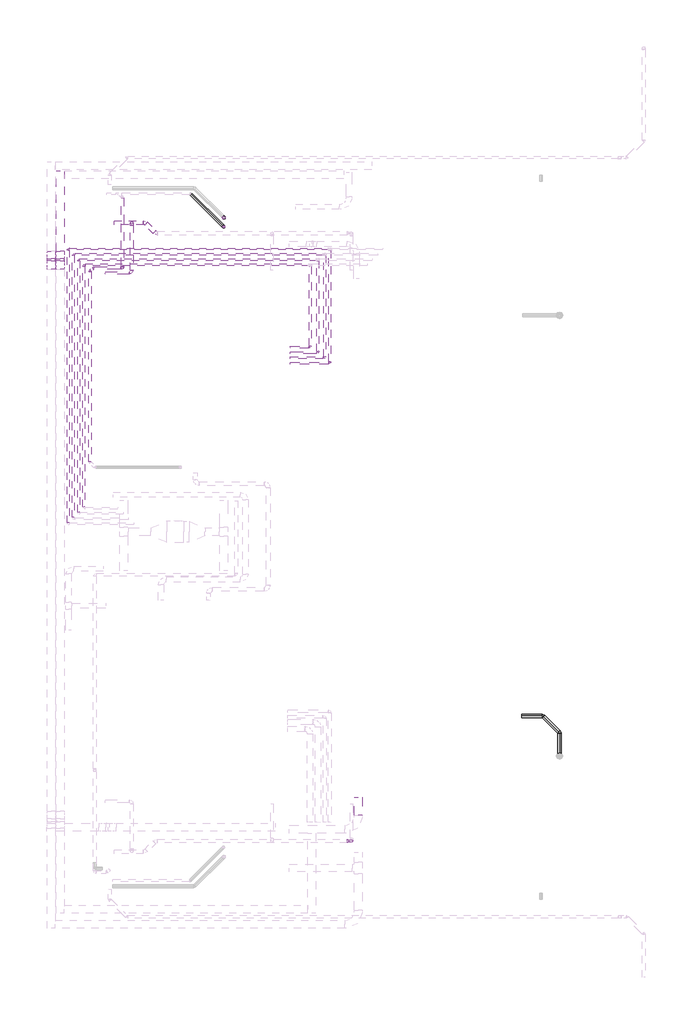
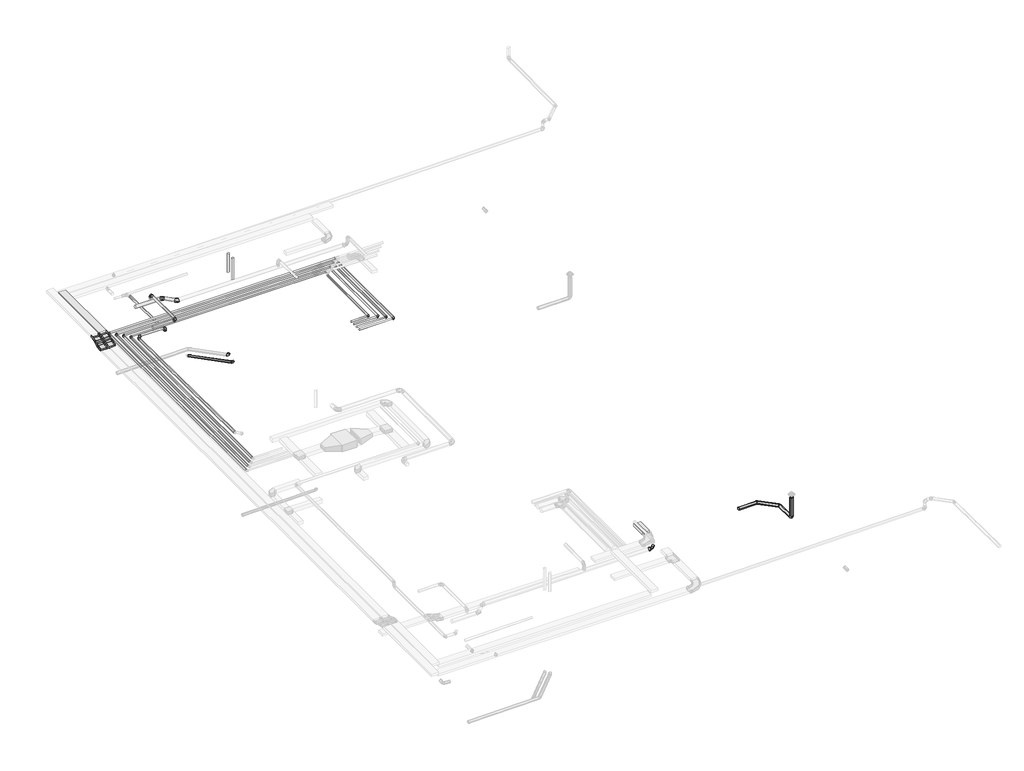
# One storey, part 3 of 4: 28 pipe segments, 18 pipe fittings, 6 duct fittings, 5 duct segments, 4 cable carrier fittings, 4 cable carrier segments.
"""IFC4 building model written with IfcOpenShell, lengths in millimetres."""

from ifc_helpers import new_model, si_unit, point, frame, frame_2d, origin, place, context, project, spatial, polyline, circle_curve, trimmed, segment, composite_curve, outline, extrude, transform, mapped, element, save
from components import m_codo_vertical_exterior_de_canal_el_c4dc7364, m_codo_vertical_interior_de_canal_el_3f65be50, duct_fitting_c79161f8, m_codo_redondo_ext_1_d_85067ab4, m_codo_redondo_ext_1_d_96ea52f9, m_codo_redondo_ext_1_d_18db741d, pipe_fitting_8e92d537, pipe_fitting_b994c117, pipe_fitting_e4fb672d, pipe_fitting_688cd524, pipe_fitting_7b861d32, pipe_fitting_3454c7e7, pipe_fitting_51958308, pipe_fitting_3a68447e

model = new_model("IFC4")

# Units and contexts
model_context = context("Model", 3, world=origin())
ifc_project = project(units=[si_unit("LENGTHUNIT", "METRE", prefix="MILLI")], contexts=[model_context])

# Site, building, storey
site = spatial("IfcSite", under=ifc_project)
building = spatial("IfcBuilding", under=site)
storey = spatial("IfcBuildingStorey", under=building, Name="Nivell 05 P05_PP", Elevation=26160.0)

# Cable carrier fittings
placement = place(None, origin())
m_codo_vertical_exterior_de_canal_el_shape = m_codo_vertical_exterior_de_canal_el_c4dc7364(model_context)
element("IfcCableCarrierFitting", 1, ObjectType="M_Codo vertical exterior de canal : EL", at=placement, inside=storey, context=model_context, shape_type="MappedRepresentation", body=[
    mapped(m_codo_vertical_exterior_de_canal_el_shape, transform((5357.0671065, 6149.6159499, 29460.0), x_axis=(0.0, -1.0, 0.0), y_axis=(0.0, 0.0, -1.0), z_axis=(1.0, 0.0, 0.0))),
])
element("IfcCableCarrierFitting", 2, ObjectType="M_Codo vertical exterior de canal : EL", at=placement, inside=storey, context=model_context, shape_type="MappedRepresentation", body=[
    mapped(m_codo_vertical_exterior_de_canal_el_shape, transform((5008.2381883, 6149.6159499, 29460.0), x_axis=(0.0, -1.0, 0.0), y_axis=(0.0, 0.0, -1.0), z_axis=(1.0, 0.0, 0.0))),
])
m_codo_vertical_interior_de_canal_el_shape = m_codo_vertical_interior_de_canal_el_3f65be50(model_context)
element("IfcCableCarrierFitting", 3, ObjectType="M_Codo vertical interior de canal : EL", at=placement, inside=storey, context=model_context, shape_type="MappedRepresentation", body=[
    mapped(m_codo_vertical_interior_de_canal_el_shape, transform((5357.0671065, 5803.2057884, 29260.0), x_axis=(0.0, -0.8660254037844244, -0.5000000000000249), y_axis=(0.0, -0.5000000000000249, 0.8660254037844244), z_axis=(-1.0, 0.0, 0.0))),
])
element("IfcCableCarrierFitting", 4, ObjectType="M_Codo vertical interior de canal : EL", at=placement, inside=storey, context=model_context, shape_type="MappedRepresentation", body=[
    mapped(m_codo_vertical_interior_de_canal_el_shape, transform((5008.2381883, 5803.2057884, 29260.0), x_axis=(0.0, -0.8660254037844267, -0.5000000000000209), y_axis=(0.0, -0.5000000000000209, 0.8660254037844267), z_axis=(-1.0, 0.0, 0.0))),
])

# Cable carrier segments
element("IfcCableCarrierSegment", 5, ObjectType="EL", at=placement, inside=storey, context=model_context, shape_type="SweptSolid", body=[
    extrude(outline(polyline([(16464.6624278, -14321.1304394), (16764.6624278, -14321.1304394), (16764.6624278, -14996.1304394), (16464.6624278, -14996.1304394), (16464.6624278, -14321.1304394)])), frame((0.0, 0.0, 29210.0), z_axis=(0.0, 0.0, 1.0), x_axis=(1.0, 0.0, 0.0)), (0.0, 0.0, 1.0), 100.0),
])
element("IfcCableCarrierSegment", 6, ObjectType="EL", at=placement, inside=storey, context=model_context, shape_type="SweptSolid", body=[
    extrude(outline(polyline([(5207.0671065, 9356.732053), (5507.0671065, 9356.732053), (5507.0671065, 6318.3981673), (5207.0671065, 6318.3981673), (5207.0671065, 9356.732053)])), frame((0.0, 0.0, 29410.0), z_axis=(0.0, 0.0, 1.0), x_axis=(1.0, 0.0, 0.0)), (0.0, 0.0, 1.0), 100.0),
])
element("IfcCableCarrierSegment", 7, ObjectType="EL", at=placement, inside=storey, context=model_context, shape_type="SweptSolid", body=[
    extrude(outline(polyline([(0.0, -300.0), (0.0, 0.0), (62.4355653, 0.0), (62.4355653, -300.0), (0.0, -300.0)])), frame((5507.0671065, 6028.446262, 29332.3076211), z_axis=(0.0, -0.5000000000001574, 0.8660254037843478), x_axis=(0.0, -0.8660254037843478, -0.5000000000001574)), (0.0, 0.0, 1.0), 100.0),
])
element("IfcCableCarrierSegment", 8, ObjectType="EL", at=placement, inside=storey, context=model_context, shape_type="SweptSolid", body=[
    extrude(outline(polyline([(0.0, -300.0), (0.0, 0.0), (62.4355653, 0.0), (62.4355653, -300.0), (0.0, -300.0)])), frame((5158.2381883, 6028.446262, 29332.3076211), z_axis=(0.0, -0.49999999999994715, 0.8660254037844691), x_axis=(0.0, -0.8660254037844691, -0.49999999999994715)), (0.0, 0.0, 1.0), 100.0),
])

# Duct fittings
duct_fitting_shape = duct_fitting_c79161f8(model_context)
element("IfcDuctFitting", 9, ObjectType="M_Transición redonda - Ángulo : EXT_45 graus", at=placement, inside=storey, context=model_context, shape_type="MappedRepresentation", body=[
    mapped(duct_fitting_shape, transform((16250.5896993, -15972.9719502, 29265.0), x_axis=(-1.0, 0.0, 0.0), y_axis=(0.0, -1.0, 0.0), z_axis=(0.0, 0.0, 1.0))),
])
m_codo_redondo_ext_1_d_shape = m_codo_redondo_ext_1_d_85067ab4(model_context)
element("IfcDuctFitting", 10, ObjectType="M_Codo redondo : EXT_1 D", at=placement, inside=storey, context=model_context, shape_type="MappedRepresentation", body=[
    mapped(m_codo_redondo_ext_1_d_shape, transform((8050.5896993, 5490.7319202, 29610.0), x_axis=(1.0, 0.0, 0.0), y_axis=(0.0, 1.0, 0.0), z_axis=(0.0, 0.0, 1.0))),
])
element("IfcDuctFitting", 11, ObjectType="M_Codo redondo : EXT_1 D", at=placement, inside=storey, context=model_context, shape_type="MappedRepresentation", body=[
    mapped(m_codo_redondo_ext_1_d_shape, transform((8050.5896993, 7388.2772732, 29610.0), x_axis=(0.0, 1.0, 0.0), y_axis=(0.0, 0.0, -1.0), z_axis=(-1.0, 0.0, 0.0))),
])
m_codo_redondo_ext_1_d_2_shape = m_codo_redondo_ext_1_d_96ea52f9(model_context)
element("IfcDuctFitting", 12, ObjectType="M_Codo redondo : EXT_1 D", at=placement, inside=storey, context=model_context, shape_type="MappedRepresentation", body=[
    mapped(m_codo_redondo_ext_1_d_2_shape, transform((16350.5896993, -15972.9719502, 29265.0), x_axis=(0.0, 0.0, -1.0), y_axis=(1.0, 0.0, 0.0), z_axis=(0.0, -1.0, 0.0))),
])
m_codo_redondo_ext_1_d_3_shape = m_codo_redondo_ext_1_d_18db741d(model_context)
element("IfcDuctFitting", 13, ObjectType="M_Codo redondo : EXT_1 D", at=placement, inside=storey, context=model_context, shape_type="MappedRepresentation", body=[
    mapped(m_codo_redondo_ext_1_d_3_shape, transform((8950.5896993, 6992.2199701, 29265.0), x_axis=(0.7071067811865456, -0.7071067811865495, 0.0), y_axis=(0.7071067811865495, 0.7071067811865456, 0.0), z_axis=(0.0, 0.0, 1.0))),
])
element("IfcDuctFitting", 14, ObjectType="M_Codo redondo : EXT_1 D", at=placement, inside=storey, context=model_context, shape_type="MappedRepresentation", body=[
    mapped(m_codo_redondo_ext_1_d_3_shape, transform((8550.5886625, 7392.2210069, 29265.0), x_axis=(-0.7071067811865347, 0.7071067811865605, 0.0), y_axis=(-0.7071067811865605, -0.7071067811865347, 0.0), z_axis=(0.0, 0.0, 1.0))),
])

# Duct segments
element("IfcDuctSegment", 15, ObjectType="EXT_Acer Galvanitzat - Rígid", at=placement, inside=storey, context=model_context, shape_type="SweptSolid", body=[
    extrude(outline(composite_curve([segment(trimmed(circle_curve(frame_2d((5490.7319202, 29610.0)), 50.0), [point((5440.7319202, 29610.0))], [point((5490.7319202, 29660.0))], False, "CARTESIAN"), True, "CONTINUOUS"), segment(trimmed(circle_curve(frame_2d((5490.7319202, 29610.0)), 50.0), [point((5490.7319202, 29660.0))], [point((5540.7319202, 29610.0))], False, "CARTESIAN"), True, "CONTINUOUS"), segment(trimmed(circle_curve(frame_2d((5490.7319202, 29610.0)), 50.0), [point((5540.7319202, 29610.0))], [point((5490.7319202, 29560.0))], False, "CARTESIAN"), True, "CONTINUOUS"), segment(trimmed(circle_curve(frame_2d((5490.7319202, 29610.0)), 50.0), [point((5490.7319202, 29560.0))], [point((5440.7319202, 29610.0))], False, "CARTESIAN"), True, "CONTINUOUS")], self_intersect=False)), frame((7050.5896993, 0.0, 0.0), z_axis=(1.0, 0.0, 0.0), x_axis=(0.0, 1.0, 0.0)), (0.0, 0.0, 1.0), 900.0),
])
element("IfcDuctSegment", 16, ObjectType="EXT_Acer Galvanitzat - Rígid", at=placement, inside=storey, context=model_context, shape_type="SweptSolid", body=[
    extrude(outline(composite_curve([segment(trimmed(circle_curve(frame_2d((29610.0, 8050.5896993)), 50.0), [point((29610.0, 8000.5896993))], [point((29560.0, 8050.5896993))], False, "CARTESIAN"), True, "CONTINUOUS"), segment(trimmed(circle_curve(frame_2d((29610.0, 8050.5896993)), 50.0), [point((29560.0, 8050.5896993))], [point((29610.0, 8100.5896993))], False, "CARTESIAN"), True, "CONTINUOUS"), segment(trimmed(circle_curve(frame_2d((29610.0, 8050.5896993)), 50.0), [point((29610.0, 8100.5896993))], [point((29660.0, 8050.5896993))], False, "CARTESIAN"), True, "CONTINUOUS"), segment(trimmed(circle_curve(frame_2d((29610.0, 8050.5896993)), 50.0), [point((29660.0, 8050.5896993))], [point((29610.0, 8000.5896993))], False, "CARTESIAN"), True, "CONTINUOUS")], self_intersect=False)), frame((0.0, 5590.7319202, 0.0), z_axis=(0.0, 1.0, 0.0), x_axis=(0.0, 0.0, 1.0)), (0.0, 0.0, 1.0), 1697.545353),
])
element("IfcDuctSegment", 17, ObjectType="EXT_Acer Galvanitzat - Rígid", at=placement, inside=storey, context=model_context, shape_type="SweptSolid", body=[
    extrude(outline(composite_curve([segment(trimmed(circle_curve(frame_2d((8050.5896993, 7388.2772732)), 50.0), [point((8000.5896993, 7388.2772732))], [point((8050.5896993, 7438.2772732))], False, "CARTESIAN"), True, "CONTINUOUS"), segment(trimmed(circle_curve(frame_2d((8050.5896993, 7388.2772732)), 50.0), [point((8050.5896993, 7438.2772732))], [point((8100.5896993, 7388.2772732))], False, "CARTESIAN"), True, "CONTINUOUS"), segment(trimmed(circle_curve(frame_2d((8050.5896993, 7388.2772732)), 50.0), [point((8100.5896993, 7388.2772732))], [point((8050.5896993, 7338.2772732))], False, "CARTESIAN"), True, "CONTINUOUS"), segment(trimmed(circle_curve(frame_2d((8050.5896993, 7388.2772732)), 50.0), [point((8050.5896993, 7338.2772732))], [point((8000.5896993, 7388.2772732))], False, "CARTESIAN"), True, "CONTINUOUS")], self_intersect=False)), frame((0.0, 0.0, 29441.6), z_axis=(0.0, 0.0, 1.0), x_axis=(1.0, 0.0, 0.0)), (0.0, 0.0, 1.0), 68.4),
])
element("IfcDuctSegment", 18, ObjectType="EXT_Acer Galvanitzat - Rígid", at=placement, inside=storey, context=model_context, shape_type="SweptSolid", body=[
    extrude(outline(composite_curve([segment(trimmed(circle_curve(frame_2d((0.0, 75.0)), 75.0), [point((74.9999999, 75.0))], [point((0.0, 0.0))], False, "CARTESIAN"), True, "CONTINUOUS"), segment(trimmed(circle_curve(frame_2d((0.0, 75.0)), 75.0), [point((0.0, 0.0))], [point((-74.9999999, 75.0))], False, "CARTESIAN"), True, "CONTINUOUS"), segment(trimmed(circle_curve(frame_2d((0.0, 75.0)), 75.0), [point((-74.9999999, 75.0))], [point((0.0, 150.0))], False, "CARTESIAN"), True, "CONTINUOUS"), segment(trimmed(circle_curve(frame_2d((0.0, 75.0)), 75.0), [point((0.0, 150.0))], [point((74.9999999, 75.0))], False, "CARTESIAN"), True, "CONTINUOUS")], self_intersect=False)), frame((8906.6557164, 7036.153953, 29340.0), z_axis=(-0.7071067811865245, 0.7071067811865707, 0.0), x_axis=(0.7071067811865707, 0.7071067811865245, 0.0)), (0.0, 0.0, 1.0), 441.4228225),
])
element("IfcDuctSegment", 19, ObjectType="EXT_Acer Galvanitzat - Rígid", at=placement, inside=storey, context=model_context, shape_type="SweptSolid", body=[
    extrude(outline(composite_curve([segment(trimmed(circle_curve(frame_2d((7392.2210069, 29265.0)), 75.0), [point((7467.2210069, 29265.0))], [point((7392.2210069, 29190.0))], False, "CARTESIAN"), True, "CONTINUOUS"), segment(trimmed(circle_curve(frame_2d((7392.2210069, 29265.0)), 75.0), [point((7392.2210069, 29190.0))], [point((7317.2210069, 29265.0))], False, "CARTESIAN"), True, "CONTINUOUS"), segment(trimmed(circle_curve(frame_2d((7392.2210069, 29265.0)), 75.0), [point((7317.2210069, 29265.0))], [point((7392.2210069, 29340.0))], False, "CARTESIAN"), True, "CONTINUOUS"), segment(trimmed(circle_curve(frame_2d((7392.2210069, 29265.0)), 75.0), [point((7392.2210069, 29340.0))], [point((7467.2210069, 29265.0))], False, "CARTESIAN"), True, "CONTINUOUS")], self_intersect=False)), frame((7390.5886625, 0.0, 0.0), z_axis=(1.0, 0.0, 0.0), x_axis=(0.0, 1.0, 0.0)), (0.0, 0.0, 1.0), 1097.8679656),
])

# Pipe fittings
pipe_fitting_shape = pipe_fitting_8e92d537(model_context)
element("IfcPipeFitting", 20, ObjectType="M_Codo - Genérico : Estándar", at=placement, inside=storey, context=model_context, shape_type="MappedRepresentation", body=[
    mapped(pipe_fitting_shape, transform((24213.2452954, -12759.2357009, 25960.8232881), x_axis=(0.0, 0.0, -1.0), y_axis=(0.0, 1.0, 0.0), z_axis=(1.0, 0.0, 0.0))),
])
pipe_fitting_2_shape = pipe_fitting_b994c117(model_context)
element("IfcPipeFitting", 21, ObjectType="M_Codo - Genérico : Estándar", at=placement, inside=storey, context=model_context, shape_type="MappedRepresentation", body=[
    mapped(pipe_fitting_2_shape, transform((24213.2452954, -11874.6467319, 25951.9773985), x_axis=(0.0, 0.9999500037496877, -0.009999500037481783), y_axis=(-0.9999914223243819, -4.1416859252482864e-05, -0.004141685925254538), z_axis=(-0.0041418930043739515, 0.009999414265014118, 0.9999414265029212))),
])
element("IfcPipeFitting", 22, ObjectType="M_Codo - Genérico : Estándar", at=placement, inside=storey, context=model_context, shape_type="MappedRepresentation", body=[
    mapped(pipe_fitting_2_shape, transform((23582.9809061, -11244.3823427, 25943.064114), x_axis=(-0.707071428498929, 0.7070714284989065, -0.009999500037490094), y_axis=(-0.7070714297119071, -0.7071300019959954, -0.0041416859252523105), z_axis=(-0.009999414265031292, 0.00414189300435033, 0.9999414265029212))),
])
pipe_fitting_3_shape = pipe_fitting_e4fb672d(model_context)
element("IfcPipeFitting", 23, ObjectType="M_Transición - Genérica : Estándar", at=placement, inside=storey, context=model_context, shape_type="MappedRepresentation", body=[
    mapped(pipe_fitting_3_shape, transform((24213.263137, -12759.2418782, 26908.0), x_axis=(0.0, 0.0, -1.0), y_axis=(1.0, 0.0, 0.0), z_axis=(0.0, -1.0, 0.0))),
])
pipe_fitting_4_shape = pipe_fitting_688cd524(model_context)
element("IfcPipeFitting", 24, ObjectType="M_Codo - Genérico : Estándar", at=placement, inside=storey, context=model_context, shape_type="MappedRepresentation", body=[
    mapped(pipe_fitting_4_shape, transform((7694.809888, 5681.3632161, 29244.4034263), x_axis=(0.9999500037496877, 0.0, -0.00999950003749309), y_axis=(-0.00999950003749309, 0.0, -0.9999500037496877), z_axis=(0.0, 1.0, 0.0))),
])
element("IfcPipeFitting", 25, ObjectType="M_Codo - Genérico : Estándar", at=placement, inside=storey, context=model_context, shape_type="MappedRepresentation", body=[
    mapped(pipe_fitting_4_shape, transform((7694.7858287, 5681.3903035, 29115.9087684), x_axis=(0.0, 0.0, -1.0), y_axis=(0.0, 1.0, 0.0), z_axis=(1.0, 0.0, 0.0))),
])
pipe_fitting_5_shape = pipe_fitting_7b861d32(model_context)
element("IfcPipeFitting", 26, ObjectType="M_Codo - Genérico : Estándar", at=placement, inside=storey, context=model_context, shape_type="MappedRepresentation", body=[
    mapped(pipe_fitting_5_shape, transform((6597.2281105, 5681.3586411, 29255.4028763), x_axis=(-0.9999500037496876, 0.0, 0.009999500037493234), y_axis=(4.1416859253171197e-05, -0.9999914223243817, 0.004141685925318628), z_axis=(0.009999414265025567, 0.004141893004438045, 0.9999414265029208))),
])
element("IfcPipeFitting", 27, ObjectType="M_Codo - Genérico : Estándar", at=placement, inside=storey, context=model_context, shape_type="MappedRepresentation", body=[
    mapped(pipe_fitting_5_shape, transform((6477.6345979, 5561.7651285, 29257.094184), x_axis=(-0.7070714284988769, -0.7070714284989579, 0.009999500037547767), y_axis=(0.7071300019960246, -0.7070714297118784, 0.00414168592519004), z_axis=(0.00414189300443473, 0.009999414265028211, 0.9999414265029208))),
])
pipe_fitting_6_shape = pipe_fitting_3454c7e7(model_context)
element("IfcPipeFitting", 28, ObjectType="M_Codo - Genérico : Estándar", at=placement, inside=storey, context=model_context, shape_type="MappedRepresentation", body=[
    mapped(pipe_fitting_6_shape, transform((11534.5619983, 7581.1908892, 25510.0), x_axis=(0.7070714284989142, -0.7070714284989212, 0.00999950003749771), y_axis=(0.007070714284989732, -0.007070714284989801, -0.9999500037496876), z_axis=(0.707106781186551, 0.707106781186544, 0.0))),
])
pipe_fitting_7_shape = pipe_fitting_51958308(model_context)
element("IfcPipeFitting", 29, ObjectType="M_Codo - Genérico : Estándar", at=placement, inside=storey, context=model_context, shape_type="MappedRepresentation", body=[
    mapped(pipe_fitting_7_shape, transform((11525.3277949, 7233.9123781, 25382.2904279), x_axis=(0.7070714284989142, -0.7070714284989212, 0.00999950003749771), y_axis=(0.007070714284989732, -0.007070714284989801, -0.9999500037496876), z_axis=(0.707106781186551, 0.707106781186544, 0.0))),
])
pipe_fitting_8_shape = pipe_fitting_3a68447e(model_context)
element("IfcPipeFitting", 30, ObjectType="M_Codo - Genérico : Estándar", at=placement, inside=storey, context=model_context, shape_type="MappedRepresentation", body=[
    mapped(pipe_fitting_8_shape, transform((5645.7381883, 6394.2427547, 29272.5), x_axis=(-1.0, 0.0, 0.0), y_axis=(0.0, -1.0, 0.0), z_axis=(0.0, 0.0, 1.0))),
])
element("IfcPipeFitting", 31, ObjectType="M_Codo - Genérico : Estándar", at=placement, inside=storey, context=model_context, shape_type="MappedRepresentation", body=[
    mapped(pipe_fitting_8_shape, transform((5845.7381883, 6194.2427547, 29272.5), x_axis=(-1.0, 0.0, 0.0), y_axis=(0.0, -1.0, 0.0), z_axis=(0.0, 0.0, 1.0))),
])
element("IfcPipeFitting", 32, ObjectType="M_Codo - Genérico : Estándar", at=placement, inside=storey, context=model_context, shape_type="MappedRepresentation", body=[
    mapped(pipe_fitting_8_shape, transform((6045.7381883, 5994.2427547, 29272.5), x_axis=(-1.0, 0.0, 0.0), y_axis=(0.0, -1.0, 0.0), z_axis=(0.0, 0.0, 1.0))),
])
element("IfcPipeFitting", 33, ObjectType="M_Codo - Genérico : Estándar", at=placement, inside=storey, context=model_context, shape_type="MappedRepresentation", body=[
    mapped(pipe_fitting_8_shape, transform((6245.7381883, 5794.2427547, 29272.5), x_axis=(-1.0, 0.0, 0.0), y_axis=(0.0, -1.0, 0.0), z_axis=(0.0, 0.0, 1.0))),
])
element("IfcPipeFitting", 34, ObjectType="M_Codo - Genérico : Estándar", at=placement, inside=storey, context=model_context, shape_type="MappedRepresentation", body=[
    mapped(pipe_fitting_8_shape, transform((14787.4352568, 2683.4063617, 29122.5), x_axis=(1.0, 0.0, 0.0), y_axis=(0.0, 1.0, 0.0), z_axis=(0.0, 0.0, 1.0))),
])
element("IfcPipeFitting", 35, ObjectType="M_Codo - Genérico : Estándar", at=placement, inside=storey, context=model_context, shape_type="MappedRepresentation", body=[
    mapped(pipe_fitting_8_shape, transform((15087.4352568, 2483.4063617, 29122.5), x_axis=(1.0, 0.0, 0.0), y_axis=(0.0, 1.0, 0.0), z_axis=(0.0, 0.0, 1.0))),
])
element("IfcPipeFitting", 36, ObjectType="M_Codo - Genérico : Estándar", at=placement, inside=storey, context=model_context, shape_type="MappedRepresentation", body=[
    mapped(pipe_fitting_8_shape, transform((15337.4352568, 2283.4063617, 29122.5), x_axis=(1.0, 0.0, 0.0), y_axis=(0.0, 1.0, 0.0), z_axis=(0.0, 0.0, 1.0))),
])
element("IfcPipeFitting", 37, ObjectType="M_Codo - Genérico : Estándar", at=placement, inside=storey, context=model_context, shape_type="MappedRepresentation", body=[
    mapped(pipe_fitting_8_shape, transform((15537.4352568, 2083.4063617, 29122.5), x_axis=(1.0, 0.0, 0.0), y_axis=(0.0, 1.0, 0.0), z_axis=(0.0, 0.0, 1.0))),
])

# Pipe segments
element("IfcPipeSegment", 38, ObjectType="PVC_Baixant", at=placement, inside=storey, context=model_context, shape_type="SweptSolid", body=[
    extrude(outline(composite_curve([segment(trimmed(circle_curve(frame_2d((0.0, -62.5000001)), 62.5), [point((62.5, -62.5000001))], [point((0.0, -125.0))], False, "CARTESIAN"), True, "CONTINUOUS"), segment(trimmed(circle_curve(frame_2d((0.0, -62.5000001)), 62.5), [point((0.0, -125.0))], [point((-62.5, -62.5000001))], False, "CARTESIAN"), True, "CONTINUOUS"), segment(trimmed(circle_curve(frame_2d((0.0, -62.5000001)), 62.5), [point((-62.5, -62.5000001))], [point((0.0, 0.0))], False, "CARTESIAN"), True, "CONTINUOUS"), segment(trimmed(circle_curve(frame_2d((0.0, -62.5000001)), 62.5), [point((0.0, 0.0))], [point((62.5, -62.5000001))], False, "CARTESIAN"), True, "CONTINUOUS")], self_intersect=False)), frame((24213.2452954, -11903.608932, 26014.7701454), z_axis=(0.0, -0.9999500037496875, 0.009999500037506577), x_axis=(1.0, 0.0, 0.0)), (0.0, 0.0, 1.0), 784.3178523),
])
element("IfcPipeSegment", 39, ObjectType="PVC_Baixant", at=placement, inside=storey, context=model_context, shape_type="SweptSolid", body=[
    extrude(outline(composite_curve([segment(trimmed(circle_curve(frame_2d((0.0, -62.4999999)), 62.5), [point((-62.5, -62.4999999))], [point((0.0, 0.0))], False, "CARTESIAN"), True, "CONTINUOUS"), segment(trimmed(circle_curve(frame_2d((0.0, -62.4999999)), 62.5), [point((0.0, 0.0))], [point((62.5, -62.4999999))], False, "CARTESIAN"), True, "CONTINUOUS"), segment(trimmed(circle_curve(frame_2d((0.0, -62.4999999)), 62.5), [point((62.5, -62.4999999))], [point((0.0, -124.9999999))], False, "CARTESIAN"), True, "CONTINUOUS"), segment(trimmed(circle_curve(frame_2d((0.0, -62.4999999)), 62.5), [point((0.0, -124.9999999))], [point((-62.5, -62.4999999))], False, "CARTESIAN"), True, "CONTINUOUS")], self_intersect=False)), frame((24213.2452954, -12821.7357008, 26031.5495274), z_axis=(2.114175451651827e-05, -7.319957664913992e-06, 0.9999999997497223), x_axis=(-0.9999999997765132, -1.5475620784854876e-10, 2.114175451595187e-05)), (0.0, 0.0, 1.0), 843.9062653),
])
element("IfcPipeSegment", 40, ObjectType="PVC_Baixant", at=placement, inside=storey, context=model_context, shape_type="SweptSolid", body=[
    extrude(outline(composite_curve([segment(trimmed(circle_curve(frame_2d((0.0, -62.5)), 62.5), [point((62.4968755, -61.8750625))], [point((0.6249376, -124.9968756))], False, "CARTESIAN"), True, "CONTINUOUS"), segment(trimmed(circle_curve(frame_2d((0.0, -62.5)), 62.5), [point((0.6249376, -124.9968756))], [point((-62.4968755, -63.1249375))], False, "CARTESIAN"), True, "CONTINUOUS"), segment(trimmed(circle_curve(frame_2d((0.0, -62.5)), 62.5), [point((-62.4968755, -63.1249375))], [point((-0.6249374, -0.0031244))], False, "CARTESIAN"), True, "CONTINUOUS"), segment(trimmed(circle_curve(frame_2d((0.0, -62.5)), 62.5), [point((-0.6249374, -0.0031244))], [point((62.4968755, -61.8750625))], False, "CARTESIAN"), True, "CONTINUOUS")], self_intersect=False)), frame((23603.9021938, -11264.4198353, 26005.8537366), z_axis=(0.7070714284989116, -0.7070714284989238, 0.009999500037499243), x_axis=(0.70714213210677, 0.7070007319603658, -0.009998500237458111)), (0.0, 0.0, 1.0), 832.1957162),
])
element("IfcPipeSegment", 41, ObjectType="PVC_Baixant", at=placement, inside=storey, context=model_context, shape_type="SweptSolid", body=[
    extrude(outline(composite_curve([segment(trimmed(circle_curve(frame_2d((0.0, -62.5)), 62.5), [point((0.0, 0.0))], [point((62.5, -62.5))], False, "CARTESIAN"), True, "CONTINUOUS"), segment(trimmed(circle_curve(frame_2d((0.0, -62.5)), 62.5), [point((62.5, -62.5))], [point((0.0, -125.0))], False, "CARTESIAN"), True, "CONTINUOUS"), segment(trimmed(circle_curve(frame_2d((0.0, -62.5)), 62.5), [point((0.0, -125.0))], [point((-62.5000001, -62.5))], False, "CARTESIAN"), True, "CONTINUOUS"), segment(trimmed(circle_curve(frame_2d((0.0, -62.5)), 62.5), [point((-62.5000001, -62.5))], [point((0.0, 0.0))], False, "CARTESIAN"), True, "CONTINUOUS")], self_intersect=False)), frame((22786.0281225, -11181.8823427, 25935.0945861), z_axis=(0.9999500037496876, 0.0, 0.009999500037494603), x_axis=(0.009999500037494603, 0.0, -0.9999500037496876)), (0.0, 0.0, 1.0), 767.4039821),
])
element("IfcPipeSegment", 42, ObjectType="PVC_Baixant", at=placement, inside=storey, context=model_context, shape_type="SweptSolid", body=[
    extrude(outline(composite_curve([segment(trimmed(circle_curve(frame_2d((11534.5619983, 7581.1908892)), 55.0), [point((11479.5619983, 7581.1908892))], [point((11534.5619983, 7636.1908892))], False, "CARTESIAN"), True, "CONTINUOUS"), segment(trimmed(circle_curve(frame_2d((11534.5619983, 7581.1908892)), 55.0), [point((11534.5619983, 7636.1908892))], [point((11589.5619983, 7581.1908892))], False, "CARTESIAN"), True, "CONTINUOUS"), segment(trimmed(circle_curve(frame_2d((11534.5619983, 7581.1908892)), 55.0), [point((11589.5619983, 7581.1908892))], [point((11534.5619983, 7526.1908892))], False, "CARTESIAN"), True, "CONTINUOUS"), segment(trimmed(circle_curve(frame_2d((11534.5619983, 7581.1908892)), 55.0), [point((11534.5619983, 7526.1908892))], [point((11479.5619983, 7581.1908892))], False, "CARTESIAN"), True, "CONTINUOUS")], self_intersect=False)), frame((0.0, 0.0, 29322.3112718), z_axis=(0.0, 0.0, 1.0), x_axis=(1.0, 0.0, 0.0)), (0.0, 0.0, 1.0), 837.6887282),
])
element("IfcPipeSegment", 43, ObjectType="PVC_Baixant", at=placement, inside=storey, context=model_context, shape_type="SweptSolid", body=[
    extrude(outline(composite_curve([segment(trimmed(circle_curve(frame_2d((0.0, 45.0)), 45.0), [point((-45.0, 45.0))], [point((1e-07, 90.0))], False, "CARTESIAN"), True, "CONTINUOUS"), segment(trimmed(circle_curve(frame_2d((0.0, 45.0)), 45.0), [point((1e-07, 90.0))], [point((45.0000001, 45.0))], False, "CARTESIAN"), True, "CONTINUOUS"), segment(trimmed(circle_curve(frame_2d((0.0, 45.0)), 45.0), [point((45.0000001, 45.0))], [point((0.0, 0.0))], False, "CARTESIAN"), True, "CONTINUOUS"), segment(trimmed(circle_curve(frame_2d((0.0, 45.0)), 45.0), [point((0.0, 0.0))], [point((-45.0, 45.0))], False, "CARTESIAN"), True, "CONTINUOUS")], self_intersect=False)), frame((11525.3277949, 7188.9123781, 29184.1560186), z_axis=(5.1728157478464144e-05, -1.4524516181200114e-05, 0.9999999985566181), x_axis=(0.9999999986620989, 7.513278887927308e-10, -5.1728157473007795e-05)), (0.0, 0.0, 1.0), 975.8433165),
])
element("IfcPipeSegment", 44, ObjectType="PVC_Baixant", at=placement, inside=storey, context=model_context, shape_type="SweptSolid", body=[
    extrude(outline(composite_curve([segment(trimmed(circle_curve(frame_2d((1e-07, -45.0)), 45.0), [point((44.9977504, -44.550045))], [point((0.449955, -89.9977503))], False, "CARTESIAN"), True, "CONTINUOUS"), segment(trimmed(circle_curve(frame_2d((1e-07, -45.0)), 45.0), [point((0.449955, -89.9977503))], [point((-44.9977504, -45.449955))], False, "CARTESIAN"), True, "CONTINUOUS"), segment(trimmed(circle_curve(frame_2d((1e-07, -45.0)), 45.0), [point((-44.9977504, -45.449955))], [point((-0.449955, -0.0022496))], False, "CARTESIAN"), True, "CONTINUOUS"), segment(trimmed(circle_curve(frame_2d((1e-07, -45.0)), 45.0), [point((-0.449955, -0.0022496))], [point((44.9977504, -44.550045))], False, "CARTESIAN"), True, "CONTINUOUS")], self_intersect=False)), frame((10293.8861548, 8465.9903507, 25409.8707139), z_axis=(0.7070714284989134, -0.707071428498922, 0.00999950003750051), x_axis=(0.7071421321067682, 0.7070007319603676, -0.009998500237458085)), (0.0, 0.0, 1.0), 1689.7422983),
])
element("IfcPipeSegment", 45, ObjectType="PPR_CLI_Aquatherm Blue Pipe", at=placement, inside=storey, context=model_context, shape_type="SweptSolid", body=[
    extrude(outline(composite_curve([segment(trimmed(circle_curve(frame_2d((2683.4063617, 29122.5)), 37.5), [point((2645.9063617, 29122.5))], [point((2683.4063617, 29160.0))], False, "CARTESIAN"), True, "CONTINUOUS"), segment(trimmed(circle_curve(frame_2d((2683.4063617, 29122.5)), 37.5), [point((2683.4063617, 29160.0))], [point((2720.9063617, 29122.5))], False, "CARTESIAN"), True, "CONTINUOUS"), segment(trimmed(circle_curve(frame_2d((2683.4063617, 29122.5)), 37.5), [point((2720.9063617, 29122.5))], [point((2683.4063617, 29085.0))], False, "CARTESIAN"), True, "CONTINUOUS"), segment(trimmed(circle_curve(frame_2d((2683.4063617, 29122.5)), 37.5), [point((2683.4063617, 29085.0))], [point((2645.9063617, 29122.5))], False, "CARTESIAN"), True, "CONTINUOUS")], self_intersect=False)), frame((14037.4352568, 0.0, 0.0), z_axis=(1.0, 0.0, 0.0), x_axis=(0.0, 1.0, 0.0)), (0.0, 0.0, 1.0), 704.5625),
])
element("IfcPipeSegment", 46, ObjectType="PPR_CLI_Aquatherm Blue Pipe", at=placement, inside=storey, context=model_context, shape_type="SweptSolid", body=[
    extrude(outline(composite_curve([segment(trimmed(circle_curve(frame_2d((29122.5, 14787.4352568)), 37.5), [point((29122.5, 14824.9352568))], [point((29160.0, 14787.4352568))], False, "CARTESIAN"), True, "CONTINUOUS"), segment(trimmed(circle_curve(frame_2d((29122.5, 14787.4352568)), 37.5), [point((29160.0, 14787.4352568))], [point((29122.5, 14749.9352568))], False, "CARTESIAN"), True, "CONTINUOUS"), segment(trimmed(circle_curve(frame_2d((29122.5, 14787.4352568)), 37.5), [point((29122.5, 14749.9352568))], [point((29085.0, 14787.4352568))], False, "CARTESIAN"), True, "CONTINUOUS"), segment(trimmed(circle_curve(frame_2d((29122.5, 14787.4352568)), 37.5), [point((29085.0, 14787.4352568))], [point((29122.5, 14824.9352568))], False, "CARTESIAN"), True, "CONTINUOUS")], self_intersect=False)), frame((0.0, 2728.8438617, 0.0), z_axis=(0.0, 1.0, 0.0), x_axis=(0.0, 0.0, 1.0)), (0.0, 0.0, 1.0), 3019.9613931),
])
element("IfcPipeSegment", 47, ObjectType="PPR_CLI_Aquatherm Blue Pipe", at=placement, inside=storey, context=model_context, shape_type="SweptSolid", body=[
    extrude(outline(composite_curve([segment(trimmed(circle_curve(frame_2d((2483.4063617, 29122.5)), 37.5), [point((2445.9063617, 29122.5))], [point((2483.4063617, 29160.0))], False, "CARTESIAN"), True, "CONTINUOUS"), segment(trimmed(circle_curve(frame_2d((2483.4063617, 29122.5)), 37.5), [point((2483.4063617, 29160.0))], [point((2520.9063617, 29122.5))], False, "CARTESIAN"), True, "CONTINUOUS"), segment(trimmed(circle_curve(frame_2d((2483.4063617, 29122.5)), 37.5), [point((2520.9063617, 29122.5))], [point((2483.4063617, 29085.0))], False, "CARTESIAN"), True, "CONTINUOUS"), segment(trimmed(circle_curve(frame_2d((2483.4063617, 29122.5)), 37.5), [point((2483.4063617, 29085.0))], [point((2445.9063617, 29122.5))], False, "CARTESIAN"), True, "CONTINUOUS")], self_intersect=False)), frame((14037.4352568, 0.0, 0.0), z_axis=(1.0, 0.0, 0.0), x_axis=(0.0, 1.0, 0.0)), (0.0, 0.0, 1.0), 1004.5625),
])
element("IfcPipeSegment", 48, ObjectType="PPR_CLI_Aquatherm Blue Pipe", at=placement, inside=storey, context=model_context, shape_type="SweptSolid", body=[
    extrude(outline(composite_curve([segment(trimmed(circle_curve(frame_2d((29122.5, 15087.4352568)), 37.5), [point((29122.5, 15124.9352568))], [point((29160.0, 15087.4352568))], False, "CARTESIAN"), True, "CONTINUOUS"), segment(trimmed(circle_curve(frame_2d((29122.5, 15087.4352568)), 37.5), [point((29160.0, 15087.4352568))], [point((29122.5, 15049.9352568))], False, "CARTESIAN"), True, "CONTINUOUS"), segment(trimmed(circle_curve(frame_2d((29122.5, 15087.4352568)), 37.5), [point((29122.5, 15049.9352568))], [point((29085.0, 15087.4352568))], False, "CARTESIAN"), True, "CONTINUOUS"), segment(trimmed(circle_curve(frame_2d((29122.5, 15087.4352568)), 37.5), [point((29085.0, 15087.4352568))], [point((29122.5, 15124.9352568))], False, "CARTESIAN"), True, "CONTINUOUS")], self_intersect=False)), frame((0.0, 2528.8438617, 0.0), z_axis=(0.0, 1.0, 0.0), x_axis=(0.0, 0.0, 1.0)), (0.0, 0.0, 1.0), 3419.9613931),
])
element("IfcPipeSegment", 49, ObjectType="PPR_CLI_Aquatherm Blue Pipe", at=placement, inside=storey, context=model_context, shape_type="SweptSolid", body=[
    extrude(outline(composite_curve([segment(trimmed(circle_curve(frame_2d((2283.4063617, 29122.5)), 37.5), [point((2245.9063617, 29122.5))], [point((2283.4063617, 29160.0))], False, "CARTESIAN"), True, "CONTINUOUS"), segment(trimmed(circle_curve(frame_2d((2283.4063617, 29122.5)), 37.5), [point((2283.4063617, 29160.0))], [point((2320.9063617, 29122.5))], False, "CARTESIAN"), True, "CONTINUOUS"), segment(trimmed(circle_curve(frame_2d((2283.4063617, 29122.5)), 37.5), [point((2320.9063617, 29122.5))], [point((2283.4063617, 29085.0))], False, "CARTESIAN"), True, "CONTINUOUS"), segment(trimmed(circle_curve(frame_2d((2283.4063617, 29122.5)), 37.5), [point((2283.4063617, 29085.0))], [point((2245.9063617, 29122.5))], False, "CARTESIAN"), True, "CONTINUOUS")], self_intersect=False)), frame((14037.4352568, 0.0, 0.0), z_axis=(1.0, 0.0, 0.0), x_axis=(0.0, 1.0, 0.0)), (0.0, 0.0, 1.0), 1254.5625),
])
element("IfcPipeSegment", 50, ObjectType="PPR_CLI_Aquatherm Blue Pipe", at=placement, inside=storey, context=model_context, shape_type="SweptSolid", body=[
    extrude(outline(composite_curve([segment(trimmed(circle_curve(frame_2d((29122.5, 15337.4352568)), 37.5), [point((29122.5, 15374.9352568))], [point((29160.0, 15337.4352568))], False, "CARTESIAN"), True, "CONTINUOUS"), segment(trimmed(circle_curve(frame_2d((29122.5, 15337.4352568)), 37.5), [point((29160.0, 15337.4352568))], [point((29122.5, 15299.9352568))], False, "CARTESIAN"), True, "CONTINUOUS"), segment(trimmed(circle_curve(frame_2d((29122.5, 15337.4352568)), 37.5), [point((29122.5, 15299.9352568))], [point((29085.0, 15337.4352568))], False, "CARTESIAN"), True, "CONTINUOUS"), segment(trimmed(circle_curve(frame_2d((29122.5, 15337.4352568)), 37.5), [point((29085.0, 15337.4352568))], [point((29122.5, 15374.9352568))], False, "CARTESIAN"), True, "CONTINUOUS")], self_intersect=False)), frame((0.0, 2328.8438617, 0.0), z_axis=(0.0, 1.0, 0.0), x_axis=(0.0, 0.0, 1.0)), (0.0, 0.0, 1.0), 3819.9613931),
])
element("IfcPipeSegment", 51, ObjectType="PPR_CLI_Aquatherm Blue Pipe", at=placement, inside=storey, context=model_context, shape_type="SweptSolid", body=[
    extrude(outline(composite_curve([segment(trimmed(circle_curve(frame_2d((2083.4063617, 29122.5)), 37.5), [point((2045.9063617, 29122.5))], [point((2083.4063617, 29160.0))], False, "CARTESIAN"), True, "CONTINUOUS"), segment(trimmed(circle_curve(frame_2d((2083.4063617, 29122.5)), 37.5), [point((2083.4063617, 29160.0))], [point((2120.9063617, 29122.5))], False, "CARTESIAN"), True, "CONTINUOUS"), segment(trimmed(circle_curve(frame_2d((2083.4063617, 29122.5)), 37.5), [point((2120.9063617, 29122.5))], [point((2083.4063617, 29085.0))], False, "CARTESIAN"), True, "CONTINUOUS"), segment(trimmed(circle_curve(frame_2d((2083.4063617, 29122.5)), 37.5), [point((2083.4063617, 29085.0))], [point((2045.9063617, 29122.5))], False, "CARTESIAN"), True, "CONTINUOUS")], self_intersect=False)), frame((14037.4352568, 0.0, 0.0), z_axis=(1.0, 0.0, 0.0), x_axis=(0.0, 1.0, 0.0)), (0.0, 0.0, 1.0), 1454.5625),
])
element("IfcPipeSegment", 52, ObjectType="PPR_CLI_Aquatherm Blue Pipe", at=placement, inside=storey, context=model_context, shape_type="SweptSolid", body=[
    extrude(outline(composite_curve([segment(trimmed(circle_curve(frame_2d((29122.5, 15537.4352568)), 37.5), [point((29122.5, 15574.9352568))], [point((29160.0, 15537.4352568))], False, "CARTESIAN"), True, "CONTINUOUS"), segment(trimmed(circle_curve(frame_2d((29122.5, 15537.4352568)), 37.5), [point((29160.0, 15537.4352568))], [point((29122.5, 15499.9352568))], False, "CARTESIAN"), True, "CONTINUOUS"), segment(trimmed(circle_curve(frame_2d((29122.5, 15537.4352568)), 37.5), [point((29122.5, 15499.9352568))], [point((29085.0, 15537.4352568))], False, "CARTESIAN"), True, "CONTINUOUS"), segment(trimmed(circle_curve(frame_2d((29122.5, 15537.4352568)), 37.5), [point((29085.0, 15537.4352568))], [point((29122.5, 15574.9352568))], False, "CARTESIAN"), True, "CONTINUOUS")], self_intersect=False)), frame((0.0, 2128.8438617, 0.0), z_axis=(0.0, 1.0, 0.0), x_axis=(0.0, 0.0, 1.0)), (0.0, 0.0, 1.0), 4219.9613931),
])
element("IfcPipeSegment", 53, ObjectType="PPR_CLI_Aquatherm Blue Pipe", at=placement, inside=storey, context=model_context, shape_type="SweptSolid", body=[
    extrude(outline(composite_curve([segment(trimmed(circle_curve(frame_2d((29272.5, 6245.7381883)), 37.5), [point((29272.5, 6283.2381883))], [point((29310.0, 6245.7381883))], False, "CARTESIAN"), True, "CONTINUOUS"), segment(trimmed(circle_curve(frame_2d((29272.5, 6245.7381883)), 37.5), [point((29310.0, 6245.7381883))], [point((29272.5, 6208.2381883))], False, "CARTESIAN"), True, "CONTINUOUS"), segment(trimmed(circle_curve(frame_2d((29272.5, 6245.7381883)), 37.5), [point((29272.5, 6208.2381883))], [point((29235.0, 6245.7381883))], False, "CARTESIAN"), True, "CONTINUOUS"), segment(trimmed(circle_curve(frame_2d((29272.5, 6245.7381883)), 37.5), [point((29235.0, 6245.7381883))], [point((29272.5, 6283.2381883))], False, "CARTESIAN"), True, "CONTINUOUS")], self_intersect=False)), frame((0.0, -3349.4878722, 0.0), z_axis=(0.0, 1.0, 0.0), x_axis=(0.0, 0.0, 1.0)), (0.0, 0.0, 1.0), 9098.2931269),
])
element("IfcPipeSegment", 54, ObjectType="PPR_CLI_Aquatherm Blue Pipe", at=placement, inside=storey, context=model_context, shape_type="SweptSolid", body=[
    extrude(outline(composite_curve([segment(trimmed(circle_curve(frame_2d((29272.5, 6045.7381883)), 37.5), [point((29272.5, 6083.2381883))], [point((29310.0, 6045.7381883))], False, "CARTESIAN"), True, "CONTINUOUS"), segment(trimmed(circle_curve(frame_2d((29272.5, 6045.7381883)), 37.5), [point((29310.0, 6045.7381883))], [point((29272.5, 6008.2381883))], False, "CARTESIAN"), True, "CONTINUOUS"), segment(trimmed(circle_curve(frame_2d((29272.5, 6045.7381883)), 37.5), [point((29272.5, 6008.2381883))], [point((29235.0, 6045.7381883))], False, "CARTESIAN"), True, "CONTINUOUS"), segment(trimmed(circle_curve(frame_2d((29272.5, 6045.7381883)), 37.5), [point((29235.0, 6045.7381883))], [point((29272.5, 6083.2381883))], False, "CARTESIAN"), True, "CONTINUOUS")], self_intersect=False)), frame((0.0, -3549.4878722, 0.0), z_axis=(0.0, 1.0, 0.0), x_axis=(0.0, 0.0, 1.0)), (0.0, 0.0, 1.0), 9498.2931269),
])
element("IfcPipeSegment", 55, ObjectType="PPR_CLI_Aquatherm Blue Pipe", at=placement, inside=storey, context=model_context, shape_type="SweptSolid", body=[
    extrude(outline(composite_curve([segment(trimmed(circle_curve(frame_2d((29272.5, 5845.7381883)), 37.5), [point((29272.5, 5883.2381883))], [point((29310.0, 5845.7381883))], False, "CARTESIAN"), True, "CONTINUOUS"), segment(trimmed(circle_curve(frame_2d((29272.5, 5845.7381883)), 37.5), [point((29310.0, 5845.7381883))], [point((29272.5, 5808.2381883))], False, "CARTESIAN"), True, "CONTINUOUS"), segment(trimmed(circle_curve(frame_2d((29272.5, 5845.7381883)), 37.5), [point((29272.5, 5808.2381883))], [point((29235.0, 5845.7381883))], False, "CARTESIAN"), True, "CONTINUOUS"), segment(trimmed(circle_curve(frame_2d((29272.5, 5845.7381883)), 37.5), [point((29235.0, 5845.7381883))], [point((29272.5, 5883.2381883))], False, "CARTESIAN"), True, "CONTINUOUS")], self_intersect=False)), frame((0.0, -3749.4878722, 0.0), z_axis=(0.0, 1.0, 0.0), x_axis=(0.0, 0.0, 1.0)), (0.0, 0.0, 1.0), 9898.2931269),
])
element("IfcPipeSegment", 56, ObjectType="PPR_CLI_Aquatherm Blue Pipe", at=placement, inside=storey, context=model_context, shape_type="SweptSolid", body=[
    extrude(outline(composite_curve([segment(trimmed(circle_curve(frame_2d((29272.5, 5645.7381883)), 37.5), [point((29272.5, 5683.2381883))], [point((29310.0, 5645.7381883))], False, "CARTESIAN"), True, "CONTINUOUS"), segment(trimmed(circle_curve(frame_2d((29272.5, 5645.7381883)), 37.5), [point((29310.0, 5645.7381883))], [point((29272.5, 5608.2381883))], False, "CARTESIAN"), True, "CONTINUOUS"), segment(trimmed(circle_curve(frame_2d((29272.5, 5645.7381883)), 37.5), [point((29272.5, 5608.2381883))], [point((29235.0, 5645.7381883))], False, "CARTESIAN"), True, "CONTINUOUS"), segment(trimmed(circle_curve(frame_2d((29272.5, 5645.7381883)), 37.5), [point((29235.0, 5645.7381883))], [point((29272.5, 5683.2381883))], False, "CARTESIAN"), True, "CONTINUOUS")], self_intersect=False)), frame((0.0, -3949.4878722, 0.0), z_axis=(0.0, 1.0, 0.0), x_axis=(0.0, 0.0, 1.0)), (0.0, 0.0, 1.0), 10298.2931269),
])
element("IfcPipeSegment", 57, ObjectType="PPR_CLI_Aquatherm Blue Pipe", at=placement, inside=storey, context=model_context, shape_type="SweptSolid", body=[
    extrude(outline(composite_curve([segment(trimmed(circle_curve(frame_2d((5794.2427547, 29272.5)), 37.5), [point((5756.7427547, 29272.5))], [point((5794.2427547, 29310.0))], False, "CARTESIAN"), True, "CONTINUOUS"), segment(trimmed(circle_curve(frame_2d((5794.2427547, 29272.5)), 37.5), [point((5794.2427547, 29310.0))], [point((5831.7427547, 29272.5))], False, "CARTESIAN"), True, "CONTINUOUS"), segment(trimmed(circle_curve(frame_2d((5794.2427547, 29272.5)), 37.5), [point((5831.7427547, 29272.5))], [point((5794.2427547, 29235.0))], False, "CARTESIAN"), True, "CONTINUOUS"), segment(trimmed(circle_curve(frame_2d((5794.2427547, 29272.5)), 37.5), [point((5794.2427547, 29235.0))], [point((5756.7427547, 29272.5))], False, "CARTESIAN"), True, "CONTINUOUS")], self_intersect=False)), frame((6291.1756883, 0.0, 0.0), z_axis=(1.0, 0.0, 0.0), x_axis=(0.0, 1.0, 0.0)), (0.0, 0.0, 1.0), 8457.7595685),
])
element("IfcPipeSegment", 58, ObjectType="PPR_CLI_Aquatherm Blue Pipe", at=placement, inside=storey, context=model_context, shape_type="SweptSolid", body=[
    extrude(outline(composite_curve([segment(trimmed(circle_curve(frame_2d((5994.2427547, 29272.5)), 37.5), [point((5956.7427547, 29272.5))], [point((5994.2427547, 29310.0))], False, "CARTESIAN"), True, "CONTINUOUS"), segment(trimmed(circle_curve(frame_2d((5994.2427547, 29272.5)), 37.5), [point((5994.2427547, 29310.0))], [point((6031.7427547, 29272.5))], False, "CARTESIAN"), True, "CONTINUOUS"), segment(trimmed(circle_curve(frame_2d((5994.2427547, 29272.5)), 37.5), [point((6031.7427547, 29272.5))], [point((5994.2427547, 29235.0))], False, "CARTESIAN"), True, "CONTINUOUS"), segment(trimmed(circle_curve(frame_2d((5994.2427547, 29272.5)), 37.5), [point((5994.2427547, 29235.0))], [point((5956.7427547, 29272.5))], False, "CARTESIAN"), True, "CONTINUOUS")], self_intersect=False)), frame((6091.1756883, 0.0, 0.0), z_axis=(1.0, 0.0, 0.0), x_axis=(0.0, 1.0, 0.0)), (0.0, 0.0, 1.0), 8957.7595685),
])
element("IfcPipeSegment", 59, ObjectType="PPR_CLI_Aquatherm Blue Pipe", at=placement, inside=storey, context=model_context, shape_type="SweptSolid", body=[
    extrude(outline(composite_curve([segment(trimmed(circle_curve(frame_2d((6194.2427547, 29272.5)), 37.5), [point((6156.7427547, 29272.5))], [point((6194.2427547, 29310.0))], False, "CARTESIAN"), True, "CONTINUOUS"), segment(trimmed(circle_curve(frame_2d((6194.2427547, 29272.5)), 37.5), [point((6194.2427547, 29310.0))], [point((6231.7427547, 29272.5))], False, "CARTESIAN"), True, "CONTINUOUS"), segment(trimmed(circle_curve(frame_2d((6194.2427547, 29272.5)), 37.5), [point((6231.7427547, 29272.5))], [point((6194.2427547, 29235.0))], False, "CARTESIAN"), True, "CONTINUOUS"), segment(trimmed(circle_curve(frame_2d((6194.2427547, 29272.5)), 37.5), [point((6194.2427547, 29235.0))], [point((6156.7427547, 29272.5))], False, "CARTESIAN"), True, "CONTINUOUS")], self_intersect=False)), frame((5891.1756883, 0.0, 0.0), z_axis=(1.0, 0.0, 0.0), x_axis=(0.0, 1.0, 0.0)), (0.0, 0.0, 1.0), 9407.7595685),
])
element("IfcPipeSegment", 60, ObjectType="PPR_CLI_Aquatherm Blue Pipe", at=placement, inside=storey, context=model_context, shape_type="SweptSolid", body=[
    extrude(outline(composite_curve([segment(trimmed(circle_curve(frame_2d((6394.2427547, 29272.5)), 37.5), [point((6356.7427547, 29272.5))], [point((6394.2427547, 29310.0))], False, "CARTESIAN"), True, "CONTINUOUS"), segment(trimmed(circle_curve(frame_2d((6394.2427547, 29272.5)), 37.5), [point((6394.2427547, 29310.0))], [point((6431.7427547, 29272.5))], False, "CARTESIAN"), True, "CONTINUOUS"), segment(trimmed(circle_curve(frame_2d((6394.2427547, 29272.5)), 37.5), [point((6431.7427547, 29272.5))], [point((6394.2427547, 29235.0))], False, "CARTESIAN"), True, "CONTINUOUS"), segment(trimmed(circle_curve(frame_2d((6394.2427547, 29272.5)), 37.5), [point((6394.2427547, 29235.0))], [point((6356.7427547, 29272.5))], False, "CARTESIAN"), True, "CONTINUOUS")], self_intersect=False)), frame((5691.1756883, 0.0, 0.0), z_axis=(1.0, 0.0, 0.0), x_axis=(0.0, 1.0, 0.0)), (0.0, 0.0, 1.0), 9807.7595685),
])
element("IfcPipeSegment", 61, ObjectType="PVC_Baixant", at=placement, inside=storey, context=model_context, shape_type="SweptSolid", body=[
    extrude(outline(composite_curve([segment(trimmed(circle_curve(frame_2d((0.0, -45.0)), 45.0), [point((0.0200592, -89.9999955))], [point((-44.9999956, -45.0200592))], False, "CARTESIAN"), True, "CONTINUOUS"), segment(trimmed(circle_curve(frame_2d((0.0, -45.0)), 45.0), [point((-44.9999956, -45.0200592))], [point((-0.0200592, -4.4e-06))], False, "CARTESIAN"), True, "CONTINUOUS"), segment(trimmed(circle_curve(frame_2d((0.0, -45.0)), 45.0), [point((-0.0200592, -4.4e-06))], [point((44.9999955, -44.9799408))], False, "CARTESIAN"), True, "CONTINUOUS"), segment(trimmed(circle_curve(frame_2d((0.0, -45.0)), 45.0), [point((44.9999955, -44.9799408))], [point((0.0200592, -89.9999955))], False, "CARTESIAN"), True, "CONTINUOUS")], self_intersect=False)), frame((7642.9462368, 5726.3632116, 29244.942121), z_axis=(-0.9999497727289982, -4.467434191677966e-06, 0.01002257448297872), x_axis=(0.010022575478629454, -0.0004457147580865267, 0.9999496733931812)), (0.0, 0.0, 1.0), 1024.0723055),
])
element("IfcPipeSegment", 62, ObjectType="PVC_Baixant", at=placement, inside=storey, context=model_context, shape_type="SweptSolid", body=[
    extrude(outline(composite_curve([segment(trimmed(circle_curve(frame_2d((0.0, -45.0)), 45.0), [point((44.9977503, -45.449955))], [point((-0.4499551, -89.9977504))], False, "CARTESIAN"), True, "CONTINUOUS"), segment(trimmed(circle_curve(frame_2d((0.0, -45.0)), 45.0), [point((-0.4499551, -89.9977504))], [point((-44.9977504, -44.550045))], False, "CARTESIAN"), True, "CONTINUOUS"), segment(trimmed(circle_curve(frame_2d((0.0, -45.0)), 45.0), [point((-44.9977504, -44.550045))], [point((0.449955, -0.0022496))], False, "CARTESIAN"), True, "CONTINUOUS"), segment(trimmed(circle_curve(frame_2d((0.0, -45.0)), 45.0), [point((0.449955, -0.0022496))], [point((44.9977503, -45.449955))], False, "CARTESIAN"), True, "CONTINUOUS")], self_intersect=False)), frame((6581.8858329, 5666.6526959, 29300.6153496), z_axis=(-0.7070714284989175, -0.7070714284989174, 0.009999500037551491), x_axis=(0.7071421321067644, -0.7070007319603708, 0.009998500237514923)), (0.0, 0.0, 1.0), 125.7425399),
])
element("IfcPipeSegment", 63, ObjectType="PVC_Baixant", at=placement, inside=storey, context=model_context, shape_type="SweptSolid", body=[
    extrude(outline(composite_curve([segment(trimmed(circle_curve(frame_2d((0.0, -45.0)), 45.0), [point((45.0, -45.0))], [point((0.0, -90.0000001))], False, "CARTESIAN"), True, "CONTINUOUS"), segment(trimmed(circle_curve(frame_2d((0.0, -45.0)), 45.0), [point((0.0, -90.0000001))], [point((-45.0, -45.0))], False, "CARTESIAN"), True, "CONTINUOUS"), segment(trimmed(circle_curve(frame_2d((0.0, -45.0)), 45.0), [point((-45.0, -45.0))], [point((0.0, 0.0))], False, "CARTESIAN"), True, "CONTINUOUS"), segment(trimmed(circle_curve(frame_2d((0.0, -45.0)), 45.0), [point((0.0, 0.0))], [point((45.0, -45.0))], False, "CARTESIAN"), True, "CONTINUOUS")], self_intersect=False)), frame((6477.6345979, 5540.5178488, 29302.3089068), z_axis=(0.0, -0.9999500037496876, 0.009999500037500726), x_axis=(1.0, 0.0, 0.0)), (0.0, 0.0, 1.0), 7185.5580094),
])
element("IfcPipeSegment", 64, ObjectType="PVC_Baixant", at=placement, inside=storey, context=model_context, shape_type="SweptSolid", body=[
    extrude(outline(composite_curve([segment(trimmed(circle_curve(frame_2d((0.0, -45.0)), 45.0), [point((-44.9999999, -44.9999522))], [point((4.79e-05, 0.0))], False, "CARTESIAN"), True, "CONTINUOUS"), segment(trimmed(circle_curve(frame_2d((0.0, -45.0)), 45.0), [point((4.79e-05, 0.0))], [point((45.0, -45.0000479))], False, "CARTESIAN"), True, "CONTINUOUS"), segment(trimmed(circle_curve(frame_2d((0.0, -45.0)), 45.0), [point((45.0, -45.0000479))], [point((-4.78e-05, -90.0))], False, "CARTESIAN"), True, "CONTINUOUS"), segment(trimmed(circle_curve(frame_2d((0.0, -45.0)), 45.0), [point((-4.78e-05, -90.0))], [point((-44.9999999, -44.9999522))], False, "CARTESIAN"), True, "CONTINUOUS")], self_intersect=False)), frame((7694.7858287, 5636.3903304, 29167.7257871), z_axis=(0.0009716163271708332, -0.0010939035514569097, 0.9999989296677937), x_axis=(-0.999999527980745, -1.0628550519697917e-06, 0.0009716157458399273)), (0.0, 0.0, 1.0), 24.7621958),
])
element("IfcPipeSegment", 65, ObjectType="PVC_Baixant", at=placement, inside=storey, context=model_context, shape_type="SweptSolid", body=[
    extrude(outline(composite_curve([segment(trimmed(circle_curve(frame_2d((0.0, 44.9999999)), 45.0), [point((-45.0, 44.9999999))], [point((0.0, 90.0))], False, "CARTESIAN"), True, "CONTINUOUS"), segment(trimmed(circle_curve(frame_2d((0.0, 44.9999999)), 45.0), [point((0.0, 90.0))], [point((45.0, 44.9999999))], False, "CARTESIAN"), True, "CONTINUOUS"), segment(trimmed(circle_curve(frame_2d((0.0, 44.9999999)), 45.0), [point((45.0, 44.9999999))], [point((0.0, 0.0))], False, "CARTESIAN"), True, "CONTINUOUS"), segment(trimmed(circle_curve(frame_2d((0.0, 44.9999999)), 45.0), [point((0.0, 0.0))], [point((-45.0, 44.9999999))], False, "CARTESIAN"), True, "CONTINUOUS")], self_intersect=False)), frame((7694.7851775, 8330.2540594, 29044.5712882), z_axis=(0.0, -0.9999500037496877, 0.009999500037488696), x_axis=(1.0, 0.0, 0.0)), (0.0, 0.0, 1.0), 2597.5784175),
])

save(model, "model.ifc")
